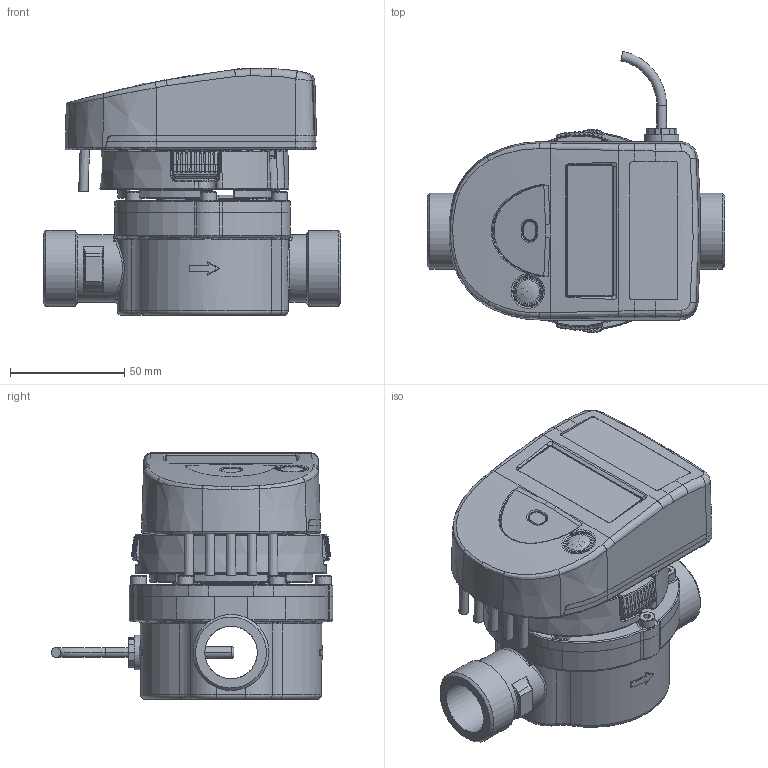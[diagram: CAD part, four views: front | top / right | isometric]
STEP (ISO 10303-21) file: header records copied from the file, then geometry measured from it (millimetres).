
FILE_DESCRIPTION(/* description */ ('Unknown'),/* implementation_level */ '2;1');
FILE_NAME(/* name */ '749_qp2.5_130mm_ avec calculateur et sonde JUMO (vide)',/* time_stamp */ '2022-09-16T11:45:07+02:00',/* author */ ('Unknown'),/* organization */ ('Unknown'),/* preprocessor_version */ 'ST-DEVELOPER v18.102',/* originating_system */ 'Solid Edge',/* authorisation */ 'Unknown');
FILE_SCHEMA (('AUTOMOTIVE_DESIGN {1 0 10303 214 3 1 1}'));
Length unit declared in the file: millimetre
Products named in the file (28): 749_qp2.5_130mm_ avec calculateur et sonde JUMO (vide); 0739P028; 0739P070; 0739P025; 0739P026; 0739P201 (schématique); Bague_P201_P202_P203; 0739P201 Câble 3 (Schématique); 0739P201_202_203 _204; 0739P201 Overmoulding Flowmeter Side Flowmeter Cable_OUTIL3D; gaine intérieure longue; gaine intérieure courte; 0739P020; 0739P021; 0739P022; 0739P024; 0749P073; 0739P023; 0739P201_202_203 _204_better waterproof; 0449P094; 0449P023; 0449P029; 00759783_vente_sonde Ø5; 00759783_AllCATPart_4_0; 00759783_AllCATPart_5_0; 00759783_AllCATPart_7_0; Flat rubber ringSLDPRT_0; cable ﾘ4.2
Assembly tree (37 placements, depth 3):
  749_qp2.5_130mm_ avec calculateur et sonde JUMO (vide)
    0739P028  x2
    0739P070
    0739P025
    0739P026
    0739P201 (schématique)  x5
      Bague_P201_P202_P203
      0739P201 Câble 3 (Schématique)
      0739P201_202_203 _204
      0739P201 Overmoulding Flowmeter Side Flowmeter Cable_OUTIL3D
      gaine intérieure longue
      gaine intérieure courte
    0739P020
    0739P021
    0739P022
    0739P024
    0749P073
    0739P023
    0739P201_202_203 _204_better waterproof
    0449P094  x6
    0449P023
    0449P029
    00759783_vente_sonde Ø5
      00759783_AllCATPart_4_0
      00759783_AllCATPart_5_0
      00759783_AllCATPart_7_0
      Flat rubber ringSLDPRT_0
      cable ﾘ4.2
Bounding box: 130 x 123.06 x 107.88 mm (x, y, z)
Volume: 237387.2 mm3; surface area: 187829.4 mm2
Topology: 55 solids, 55 shells, 4454 faces, 11625 edges, 7258 vertices
Faces by surface type: plane 1858, cylinder 1364, torus 611, cone 386, bspline 165, sphere 70
Full cylindrical faces by diameter (mm): 0.5 x6, 1 x6, 2 x1, 2.013 x2, 2.05 x2, 2.4 x2, 2.5 x2, 2.6 x2, 2.7 x6, 2.742 x1, 3.1 x1, 3.242 x12, 4 x7, 4.1 x16, 4.4 x6, 4.5 x10, 4.9 x5, 5 x2, 5.2 x1, 6 x2, 6.5 x6, 7 x6, 7.4 x1, 8 x4, 8.5 x4, 9 x2, 9.15 x1, 9.7 x1, 11.7 x1, 12 x1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
Entity records: 140650 total; most frequent: CARTESIAN_POINT 37900, ORIENTED_EDGE 19464, DIRECTION 18060, EDGE_CURVE 9732, AXIS2_PLACEMENT_3D 6978, VERTEX_POINT 6169, FACE_BOUND 4165, EDGE_LOOP 4156
